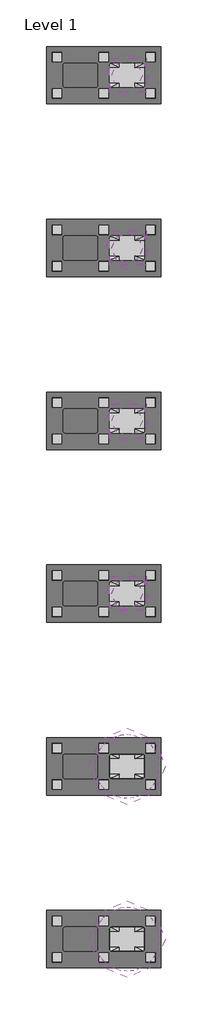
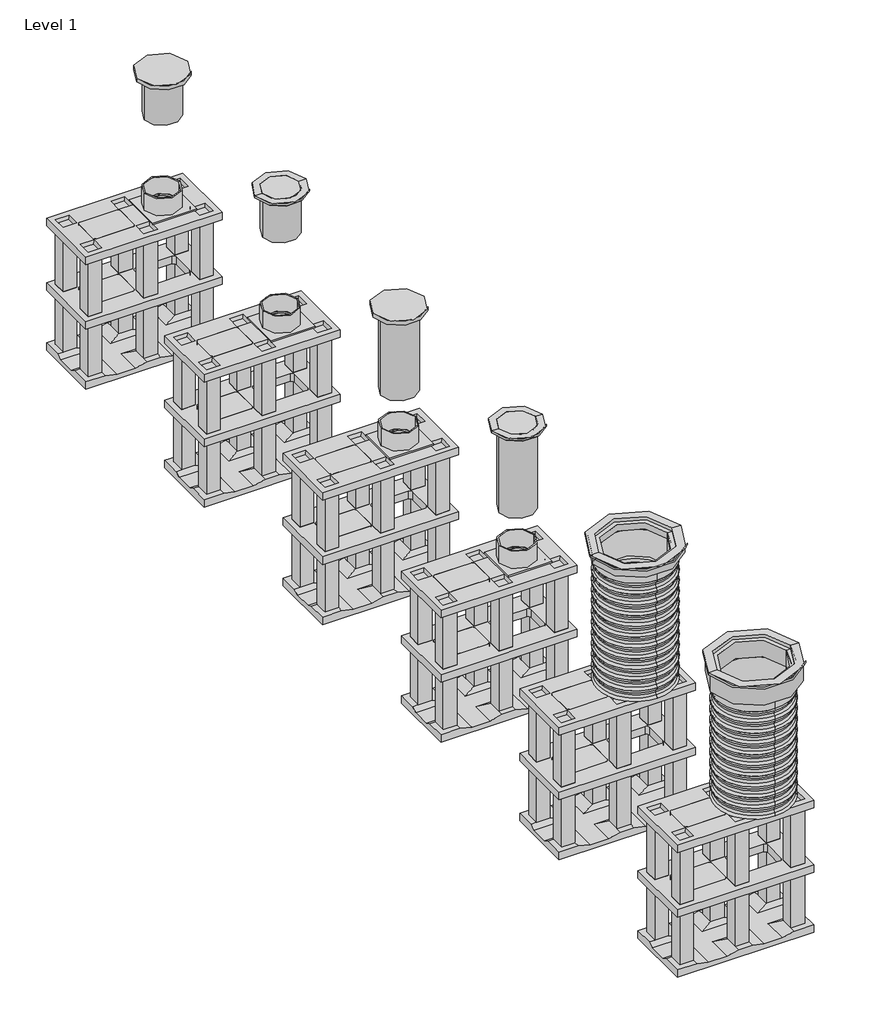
# One storey, incomplete: 20 unitary equipment elements, 18 pipe fittings.
"""IFC4 building model written with IfcOpenShell, lengths in millimetres."""

from ifc_helpers import new_model, si_unit, origin, place, context, project, spatial, transform, mapped, element, save
from components import pipe_fitting_96394642, pipe_fitting_846650ca, pipe_fitting_6d64b734, pipe_fitting_905b8aec, pipe_fitting_1d322cda, pipe_fitting_3dd59946, pipe_fitting_9b6d6bb5, pipe_fitting_315_cast_iron_ral9200_b04730d4, pipe_fitting_315_pp_ral9200_0fd825c0, std_29941be0, std_d7bb9f27, std_ea1399cf, std_4fffe7a8, unitary_equipment_600_9c861f79, closed_bottom_plate_7d425a97, std_7f29cd48

model = new_model("IFC4")

# Units and contexts
model_context = context("Model", 3, world=origin())
ifc_project = project(units=[si_unit("LENGTHUNIT", "METRE", prefix="MILLI")], contexts=[model_context])

# Site, building, storey
site = spatial("IfcSite", under=ifc_project)
building = spatial("IfcBuilding", under=site)
storey = spatial("IfcBuildingStorey", under=building, Name="Level 1", Elevation=0.0)

# Pipe fittings
placement = place(None, origin())
pipe_fitting_shape = pipe_fitting_96394642(model_context)
element("IfcPipeFitting", 1, ObjectType="Z_PIF_UN_Q-Bic_Plus_Telescopic_Pipe_PVC_Wavin_(nested) : DN315 L=375mm RAL8012", at=placement, inside=storey, context=model_context, shape_type="MappedRepresentation", body=[
    mapped(pipe_fitting_shape, transform((12778.1943714, 5477.766862, 2465.0), x_axis=(1.0, 0.0, 0.0), y_axis=(0.0, 1.0, 0.0), z_axis=(0.0, 0.0, 1.0))),
])
element("IfcPipeFitting", 2, ObjectType="Z_PIF_UN_Q-Bic_Plus_Telescopic_Pipe_PVC_Wavin_(nested) : DN315 L=375mm RAL8012", at=placement, inside=storey, context=model_context, shape_type="MappedRepresentation", body=[
    mapped(pipe_fitting_shape, transform((12778.1943714, 7283.7008735, 2465.0), x_axis=(1.0, 0.0, 0.0), y_axis=(0.0, 1.0, 0.0), z_axis=(0.0, 0.0, 1.0))),
])
pipe_fitting_2_shape = pipe_fitting_846650ca(model_context)
element("IfcPipeFitting", 3, ObjectType="Z_PIF_UN_Q-Bic_Plus_Telescopic_Pipe_PVC_Wavin_(nested) : DN315 L=750mm RAL8012", at=placement, inside=storey, context=model_context, shape_type="MappedRepresentation", body=[
    mapped(pipe_fitting_2_shape, transform((12778.1943714, 1865.8988389, 2465.0), x_axis=(1.0, 0.0, 0.0), y_axis=(0.0, 1.0, 0.0), z_axis=(0.0, 0.0, 1.0))),
])
element("IfcPipeFitting", 4, ObjectType="Z_PIF_UN_Q-Bic_Plus_Telescopic_Pipe_PVC_Wavin_(nested) : DN315 L=750mm RAL8012", at=placement, inside=storey, context=model_context, shape_type="MappedRepresentation", body=[
    mapped(pipe_fitting_2_shape, transform((12778.1943714, 3671.8328505, 2465.0), x_axis=(1.0, 0.0, 0.0), y_axis=(0.0, 1.0, 0.0), z_axis=(0.0, 0.0, 1.0))),
])
pipe_fitting_3_shape = pipe_fitting_6d64b734(model_context)
pipe_fitting_4_shape = pipe_fitting_905b8aec(model_context)
element("IfcPipeFitting", 5, ObjectType="Z_PIF_UN_Q-Bic_Plus_Shaft_Pipe_Wavin_(nested) : PP, RAL8012, ø600mm", at=placement, inside=storey, context=model_context, shape_type="MappedRepresentation", body=[
    mapped(pipe_fitting_3_shape, transform((12778.1943714, -1745.9691841, 1230.0), x_axis=(0.0, 0.0, 1.0), y_axis=(0.0, 1.0, 0.0), z_axis=(-1.0, 0.0, 0.0))),
    mapped(pipe_fitting_4_shape, transform((12778.1943714, -1745.9691841, 1230.0), x_axis=(0.0, 0.0, 1.0), y_axis=(0.0, 1.0, 0.0), z_axis=(-1.0, 0.0, 0.0))),
])
pipe_fitting_5_shape = pipe_fitting_1d322cda(model_context)
pipe_fitting_6_shape = pipe_fitting_3dd59946(model_context)
pipe_fitting_7_shape = pipe_fitting_9b6d6bb5(model_context)
element("IfcPipeFitting", 6, ObjectType="Z_PIF_UN_Q-Bic_Plus_Shaft_Pipe_Wavin_(nested) : PP, RAL8012, ø600mm", at=placement, inside=storey, context=model_context, shape_type="MappedRepresentation", body=[
    mapped(pipe_fitting_5_shape, transform((12778.1943714, 59.9648274, 1230.0), x_axis=(0.0, 0.0, 1.0), y_axis=(0.0, 1.0, 0.0), z_axis=(-1.0, 0.0, 0.0))),
    mapped(pipe_fitting_6_shape, transform((12778.1943714, 59.9648274, 1230.0), x_axis=(0.0, 0.0, 1.0), y_axis=(0.0, 1.0, 0.0), z_axis=(-1.0, 0.0, 0.0))),
    mapped(pipe_fitting_7_shape, transform((12778.1943714, 59.9648274, 1230.0), x_axis=(0.0, 0.0, 1.0), y_axis=(0.0, 1.0, 0.0), z_axis=(-1.0, 0.0, 0.0))),
])
pipe_fitting_315_cast_iron_ral9200_shape = pipe_fitting_315_cast_iron_ral9200_b04730d4(model_context)
element("IfcPipeFitting", 7, ObjectType="Z_PIF_UN_Q-Bic_Plus_Round_Cover_Wavin_(nested) : 315 Cast iron, RAL9200", at=placement, inside=storey, context=model_context, shape_type="MappedRepresentation", body=[
    mapped(pipe_fitting_315_cast_iron_ral9200_shape, transform((12778.1943714, 3671.8328505, 2500.0), x_axis=(1.0, 0.0, 0.0), y_axis=(0.0, 1.0, 0.0), z_axis=(0.0, 0.0, 1.0))),
])
element("IfcPipeFitting", 8, ObjectType="Z_PIF_UN_Q-Bic_Plus_Round_Cover_Wavin_(nested) : 315 Cast iron, RAL9200", at=placement, inside=storey, context=model_context, shape_type="MappedRepresentation", body=[
    mapped(pipe_fitting_315_cast_iron_ral9200_shape, transform((12778.1943714, 7283.7008735, 2500.0), x_axis=(1.0, 0.0, 0.0), y_axis=(0.0, 1.0, 0.0), z_axis=(0.0, 0.0, 1.0))),
])
pipe_fitting_315_pp_ral9200_shape = pipe_fitting_315_pp_ral9200_0fd825c0(model_context)
element("IfcPipeFitting", 9, ObjectType="Z_PIF_UN_Q-Bic_Plus_Round_Cover_Wavin_(nested) : 315 PP, RAL9200", at=placement, inside=storey, context=model_context, shape_type="MappedRepresentation", body=[
    mapped(pipe_fitting_315_pp_ral9200_shape, transform((12778.1943714, 1865.8988389, 2500.0), x_axis=(1.0, 0.0, 0.0), y_axis=(0.0, 1.0, 0.0), z_axis=(0.0, 0.0, 1.0))),
])
element("IfcPipeFitting", 10, ObjectType="Z_PIF_UN_Q-Bic_Plus_Round_Cover_Wavin_(nested) : 315 PP, RAL9200", at=placement, inside=storey, context=model_context, shape_type="MappedRepresentation", body=[
    mapped(pipe_fitting_315_pp_ral9200_shape, transform((12778.1943714, 5477.766862, 2500.0), x_axis=(1.0, 0.0, 0.0), y_axis=(0.0, 1.0, 0.0), z_axis=(0.0, 0.0, 1.0))),
])
std_shape = std_29941be0(model_context)
element("IfcPipeFitting", 11, ObjectType="Z_ME_UN_Q-Bic_Plus_Spigot_Plate_315_Wavin_(nested) : std", at=placement, inside=storey, context=model_context, shape_type="MappedRepresentation", body=[
    mapped(std_shape, transform((12778.1943714, 2045.8988389, 1230.0), x_axis=(1.0, 0.0, 0.0), y_axis=(0.0, 0.0, 1.0), z_axis=(0.0, -1.0, 0.0))),
])
element("IfcPipeFitting", 12, ObjectType="Z_ME_UN_Q-Bic_Plus_Spigot_Plate_315_Wavin_(nested) : std", at=placement, inside=storey, context=model_context, shape_type="MappedRepresentation", body=[
    mapped(std_shape, transform((12778.1943714, 3851.8328505, 1230.0), x_axis=(1.0, 0.0, 0.0), y_axis=(0.0, 0.0, 1.0), z_axis=(0.0, -1.0, 0.0))),
])
element("IfcPipeFitting", 13, ObjectType="Z_ME_UN_Q-Bic_Plus_Spigot_Plate_315_Wavin_(nested) : std", at=placement, inside=storey, context=model_context, shape_type="MappedRepresentation", body=[
    mapped(std_shape, transform((12778.1943714, 5657.766862, 1230.0), x_axis=(1.0, 0.0, 0.0), y_axis=(0.0, 0.0, 1.0), z_axis=(0.0, -1.0, 0.0))),
])
element("IfcPipeFitting", 14, ObjectType="Z_ME_UN_Q-Bic_Plus_Spigot_Plate_315_Wavin_(nested) : std", at=placement, inside=storey, context=model_context, shape_type="MappedRepresentation", body=[
    mapped(std_shape, transform((12778.1943714, 7463.7008735, 1230.0), x_axis=(1.0, 0.0, 0.0), y_axis=(0.0, 0.0, 1.0), z_axis=(0.0, -1.0, 0.0))),
])
std_2_shape = std_d7bb9f27(model_context)
element("IfcPipeFitting", 15, ObjectType="Z_PIF_UN_Q-Bic_Plus_Telescopic_Frame_Wavin_(nested) : std", at=placement, inside=storey, context=model_context, shape_type="MappedRepresentation", body=[
    mapped(std_2_shape, transform((12778.1943714, 5477.766862, 2500.0), x_axis=(1.0, 0.0, 0.0), y_axis=(0.0, 1.0, 0.0), z_axis=(0.0, 0.0, 1.0))),
])
std_3_shape = std_ea1399cf(model_context)
element("IfcPipeFitting", 16, ObjectType="Z_PIF_UN_Q-Bic_Plus_Telescopic_Frame_Wavin_(nested) : std", at=placement, inside=storey, context=model_context, shape_type="MappedRepresentation", body=[
    mapped(std_3_shape, transform((12778.1943714, -1745.9691841, 2500.0), x_axis=(1.0, 0.0, 0.0), y_axis=(0.0, 1.0, 0.0), z_axis=(0.0, 0.0, 1.0))),
])
std_4_shape = std_4fffe7a8(model_context)
element("IfcPipeFitting", 17, ObjectType="Z_PIF_UN_Q-Bic_Plus_Telescopic_Frame_Wavin_(nested) : std", at=placement, inside=storey, context=model_context, shape_type="MappedRepresentation", body=[
    mapped(std_4_shape, transform((12778.1943714, 59.9648274, 2500.0), x_axis=(1.0, 0.0, 0.0), y_axis=(0.0, 1.0, 0.0), z_axis=(0.0, 0.0, 1.0))),
])
element("IfcPipeFitting", 18, ObjectType="Z_PIF_UN_Q-Bic_Plus_Telescopic_Frame_Wavin_(nested) : std", at=placement, inside=storey, context=model_context, shape_type="MappedRepresentation", body=[
    mapped(std_2_shape, transform((12778.1943714, 1865.8988389, 2500.0), x_axis=(1.0, 0.0, 0.0), y_axis=(0.0, 1.0, 0.0), z_axis=(0.0, 0.0, 1.0))),
])

# Unitary equipment
unitary_equipment_600_shape = unitary_equipment_600_9c861f79(model_context)
element("IfcUnitaryEquipment", 19, ObjectType="Z_ME_UN_Q-Bic_Plus_Kit_Shaft_Connector_Wavin_(nested) : 600", at=placement, inside=storey, context=model_context, shape_type="MappedRepresentation", body=[
    mapped(unitary_equipment_600_shape, transform((12778.1943714, 59.9648274, 1230.0), x_axis=(1.0, 0.0, 0.0), y_axis=(0.0, 1.0, 0.0), z_axis=(0.0, 0.0, 1.0))),
])
element("IfcUnitaryEquipment", 20, ObjectType="Z_ME_UN_Q-Bic_Plus_Kit_Shaft_Connector_Wavin_(nested) : 600", at=placement, inside=storey, context=model_context, shape_type="MappedRepresentation", body=[
    mapped(unitary_equipment_600_shape, transform((12778.1943714, -1745.9691841, 1230.0), x_axis=(1.0, 0.0, 0.0), y_axis=(0.0, 1.0, 0.0), z_axis=(0.0, 0.0, 1.0))),
])
closed_bottom_plate_shape = closed_bottom_plate_7d425a97(model_context)
element("IfcUnitaryEquipment", 21, ObjectType="Z_ME_UN_Q-Bic_Plus_Bottom_Plate_Wavin_(nested) : Closed bottom plate", at=placement, inside=storey, context=model_context, shape_type="MappedRepresentation", body=[
    mapped(closed_bottom_plate_shape, transform((11933.1943714, -2045.9691841, 70.0), x_axis=(1.0, 0.0, 0.0), y_axis=(0.0, 1.0, 0.0), z_axis=(0.0, 0.0, 1.0))),
])
element("IfcUnitaryEquipment", 22, ObjectType="Z_ME_UN_Q-Bic_Plus_Bottom_Plate_Wavin_(nested) : Closed bottom plate", at=placement, inside=storey, context=model_context, shape_type="MappedRepresentation", body=[
    mapped(closed_bottom_plate_shape, transform((11933.1943714, -240.0351726, 70.0), x_axis=(1.0, 0.0, 0.0), y_axis=(0.0, 1.0, 0.0), z_axis=(0.0, 0.0, 1.0))),
])
element("IfcUnitaryEquipment", 23, ObjectType="Z_ME_UN_Q-Bic_Plus_Bottom_Plate_Wavin_(nested) : Closed bottom plate", at=placement, inside=storey, context=model_context, shape_type="MappedRepresentation", body=[
    mapped(closed_bottom_plate_shape, transform((11933.1943714, 1565.8988389, 70.0), x_axis=(1.0, 0.0, 0.0), y_axis=(0.0, 1.0, 0.0), z_axis=(0.0, 0.0, 1.0))),
])
element("IfcUnitaryEquipment", 24, ObjectType="Z_ME_UN_Q-Bic_Plus_Bottom_Plate_Wavin_(nested) : Closed bottom plate", at=placement, inside=storey, context=model_context, shape_type="MappedRepresentation", body=[
    mapped(closed_bottom_plate_shape, transform((11933.1943714, 3371.8328505, 70.0), x_axis=(1.0, 0.0, 0.0), y_axis=(0.0, 1.0, 0.0), z_axis=(0.0, 0.0, 1.0))),
])
element("IfcUnitaryEquipment", 25, ObjectType="Z_ME_UN_Q-Bic_Plus_Bottom_Plate_Wavin_(nested) : Closed bottom plate", at=placement, inside=storey, context=model_context, shape_type="MappedRepresentation", body=[
    mapped(closed_bottom_plate_shape, transform((11933.1943714, 5177.766862, 70.0), x_axis=(1.0, 0.0, 0.0), y_axis=(0.0, 1.0, 0.0), z_axis=(0.0, 0.0, 1.0))),
])
element("IfcUnitaryEquipment", 26, ObjectType="Z_ME_UN_Q-Bic_Plus_Bottom_Plate_Wavin_(nested) : Closed bottom plate", at=placement, inside=storey, context=model_context, shape_type="MappedRepresentation", body=[
    mapped(closed_bottom_plate_shape, transform((11933.1943714, 6983.7008735, 70.0), x_axis=(1.0, 0.0, 0.0), y_axis=(0.0, 1.0, 0.0), z_axis=(0.0, 0.0, 1.0))),
])
std_5_shape = std_7f29cd48(model_context)
element("IfcUnitaryEquipment", 27, ObjectType="Z_ME_UN_Q-Bic_Plus_Infiltration_Unit_Wavin_(nested) : std", at=placement, inside=storey, context=model_context, shape_type="MappedRepresentation", body=[
    mapped(std_5_shape, transform((11933.1943714, -2045.9691841, 30.0), x_axis=(1.0, 0.0, 0.0), y_axis=(0.0, 1.0, 0.0), z_axis=(0.0, 0.0, 1.0))),
])
element("IfcUnitaryEquipment", 28, ObjectType="Z_ME_UN_Q-Bic_Plus_Infiltration_Unit_Wavin_(nested) : std", at=placement, inside=storey, context=model_context, shape_type="MappedRepresentation", body=[
    mapped(std_5_shape, transform((11933.1943714, -240.0351726, 30.0), x_axis=(1.0, 0.0, 0.0), y_axis=(0.0, 1.0, 0.0), z_axis=(0.0, 0.0, 1.0))),
])
element("IfcUnitaryEquipment", 29, ObjectType="Z_ME_UN_Q-Bic_Plus_Infiltration_Unit_Wavin_(nested) : std", at=placement, inside=storey, context=model_context, shape_type="MappedRepresentation", body=[
    mapped(std_5_shape, transform((11933.1943714, 1565.8988389, 30.0), x_axis=(1.0, 0.0, 0.0), y_axis=(0.0, 1.0, 0.0), z_axis=(0.0, 0.0, 1.0))),
])
element("IfcUnitaryEquipment", 30, ObjectType="Z_ME_UN_Q-Bic_Plus_Infiltration_Unit_Wavin_(nested) : std", at=placement, inside=storey, context=model_context, shape_type="MappedRepresentation", body=[
    mapped(std_5_shape, transform((11933.1943714, -2045.9691841, 630.0), x_axis=(1.0, 0.0, 0.0), y_axis=(0.0, 1.0, 0.0), z_axis=(0.0, 0.0, 1.0))),
])
element("IfcUnitaryEquipment", 31, ObjectType="Z_ME_UN_Q-Bic_Plus_Infiltration_Unit_Wavin_(nested) : std", at=placement, inside=storey, context=model_context, shape_type="MappedRepresentation", body=[
    mapped(std_5_shape, transform((11933.1943714, 1565.8988389, 630.0), x_axis=(1.0, 0.0, 0.0), y_axis=(0.0, 1.0, 0.0), z_axis=(0.0, 0.0, 1.0))),
])
element("IfcUnitaryEquipment", 32, ObjectType="Z_ME_UN_Q-Bic_Plus_Infiltration_Unit_Wavin_(nested) : std", at=placement, inside=storey, context=model_context, shape_type="MappedRepresentation", body=[
    mapped(std_5_shape, transform((11933.1943714, 3371.8328505, 30.0), x_axis=(1.0, 0.0, 0.0), y_axis=(0.0, 1.0, 0.0), z_axis=(0.0, 0.0, 1.0))),
])
element("IfcUnitaryEquipment", 33, ObjectType="Z_ME_UN_Q-Bic_Plus_Infiltration_Unit_Wavin_(nested) : std", at=placement, inside=storey, context=model_context, shape_type="MappedRepresentation", body=[
    mapped(std_5_shape, transform((11933.1943714, 3371.8328505, 630.0), x_axis=(1.0, 0.0, 0.0), y_axis=(0.0, 1.0, 0.0), z_axis=(0.0, 0.0, 1.0))),
])
element("IfcUnitaryEquipment", 34, ObjectType="Z_ME_UN_Q-Bic_Plus_Infiltration_Unit_Wavin_(nested) : std", at=placement, inside=storey, context=model_context, shape_type="MappedRepresentation", body=[
    mapped(std_5_shape, transform((11933.1943714, 5177.766862, 30.0), x_axis=(1.0, 0.0, 0.0), y_axis=(0.0, 1.0, 0.0), z_axis=(0.0, 0.0, 1.0))),
])
element("IfcUnitaryEquipment", 35, ObjectType="Z_ME_UN_Q-Bic_Plus_Infiltration_Unit_Wavin_(nested) : std", at=placement, inside=storey, context=model_context, shape_type="MappedRepresentation", body=[
    mapped(std_5_shape, transform((11933.1943714, 5177.766862, 630.0), x_axis=(1.0, 0.0, 0.0), y_axis=(0.0, 1.0, 0.0), z_axis=(0.0, 0.0, 1.0))),
])
element("IfcUnitaryEquipment", 36, ObjectType="Z_ME_UN_Q-Bic_Plus_Infiltration_Unit_Wavin_(nested) : std", at=placement, inside=storey, context=model_context, shape_type="MappedRepresentation", body=[
    mapped(std_5_shape, transform((11933.1943714, 6983.7008735, 30.0), x_axis=(1.0, 0.0, 0.0), y_axis=(0.0, 1.0, 0.0), z_axis=(0.0, 0.0, 1.0))),
])
element("IfcUnitaryEquipment", 37, ObjectType="Z_ME_UN_Q-Bic_Plus_Infiltration_Unit_Wavin_(nested) : std", at=placement, inside=storey, context=model_context, shape_type="MappedRepresentation", body=[
    mapped(std_5_shape, transform((11933.1943714, 6983.7008735, 630.0), x_axis=(1.0, 0.0, 0.0), y_axis=(0.0, 1.0, 0.0), z_axis=(0.0, 0.0, 1.0))),
])
element("IfcUnitaryEquipment", 38, ObjectType="Z_ME_UN_Q-Bic_Plus_Infiltration_Unit_Wavin_(nested) : std", at=placement, inside=storey, context=model_context, shape_type="MappedRepresentation", body=[
    mapped(std_5_shape, transform((11933.1943714, -240.0351726, 630.0), x_axis=(1.0, 0.0, 0.0), y_axis=(0.0, 1.0, 0.0), z_axis=(0.0, 0.0, 1.0))),
])

save(model, "model.ifc")
